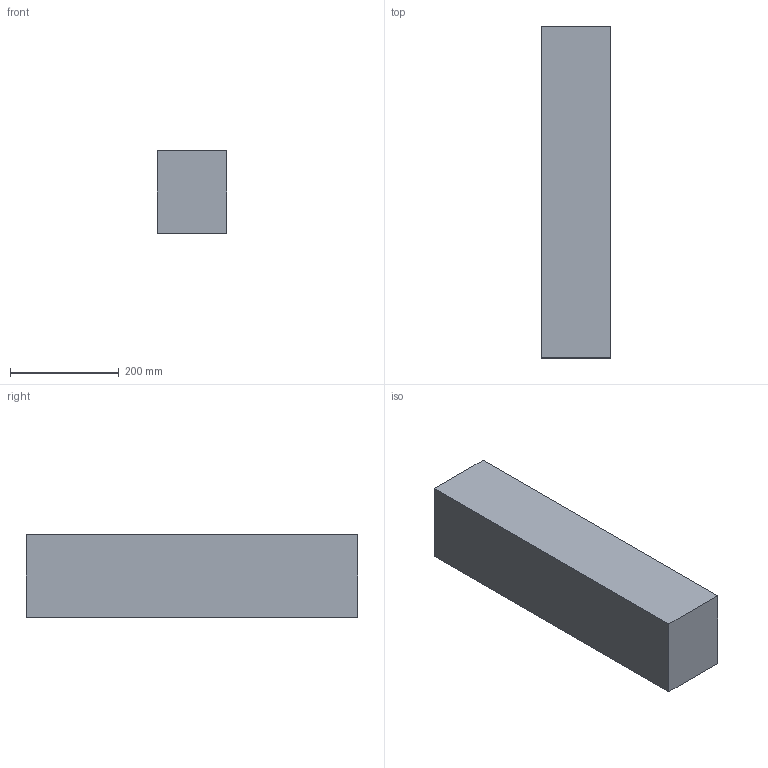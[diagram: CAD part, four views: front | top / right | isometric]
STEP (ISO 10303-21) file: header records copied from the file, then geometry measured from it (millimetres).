
FILE_DESCRIPTION(/* description */ (''),/* implementation_level */ '2;1');
FILE_NAME(/* name */ '5x6x24',/* time_stamp */ '2024-09-20T11:46:02-05:00',/* author */ (''),/* organization */ (''),/* preprocessor_version */ 'ST-DEVELOPER v19.2',/* originating_system */ 'Rhino 8.5',/* authorisation */ '');
FILE_SCHEMA (('CONFIG_CONTROL_DESIGN'));
Length unit declared in the file: inch
Products named in the file (1): Document
Bounding box: 127 x 609.6 x 152.4 mm (x, y, z)
Volume: 11798686.1 mm3; surface area: 379354.1 mm2
Topology: 1 solids, 1 shells, 6 faces, 12 edges, 8 vertices
Faces by surface type: plane 6
Entity records: 226 total; most frequent: CARTESIAN_POINT 40, ORIENTED_EDGE 24, EDGE_CURVE 12, B_SPLINE_CURVE_WITH_KNOTS 12, DIRECTION 10, VERTEX_POINT 8, AXIS2_PLACEMENT_3D 8, ORGANIZATION 7
